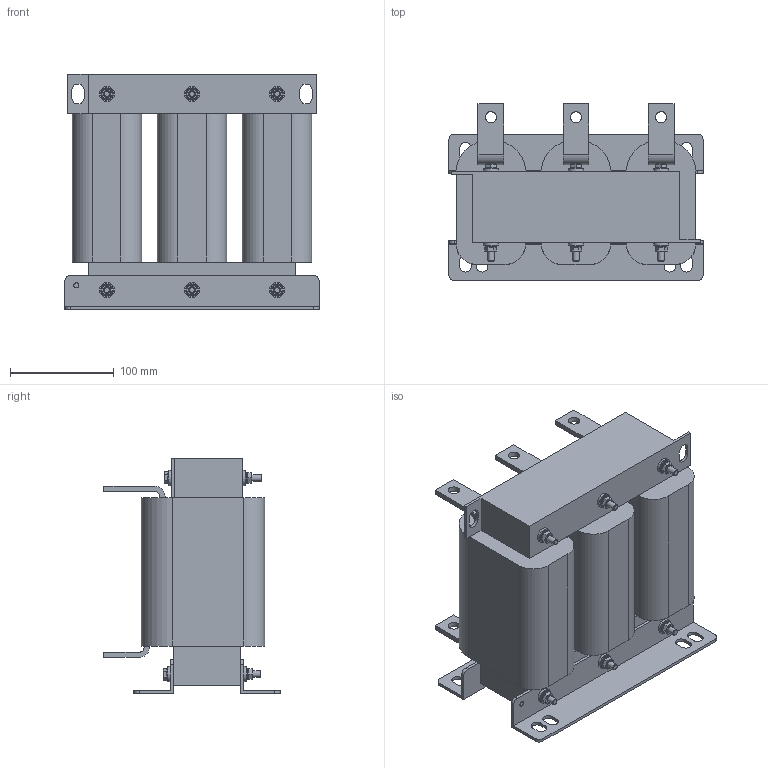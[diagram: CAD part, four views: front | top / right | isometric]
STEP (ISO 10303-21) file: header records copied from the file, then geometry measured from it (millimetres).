
FILE_DESCRIPTION(('STEP AP203'), '1');
FILE_NAME('Ñáîðêà _ IMF-132_253-4', '', ('UNSPECIFIED'), ('UNSPECIFIED'), 'C3D Converter', 'C3D Toolkit', '');
FILE_SCHEMA(('CONFIG_CONTROL_DESIGN'));
Length unit declared in the file: millimetre
Products named in the file (12): IMF-132_253-4
Assembly tree (55 placements, depth 2):
  IMF-132_253-4
    IMF-132_253-4  x3
    IMF-132_253-4
    IMF-132_253-4
    IMF-132_253-4  x2
    IMF-132_253-4  x3
    IMF-132_253-4  x3
    IMF-132_253-4  x12
    IMF-132_253-4  x12
    IMF-132_253-4  x6
    IMF-132_253-4  x6
    IMF-132_253-4  x6
Bounding box: 245 x 170 x 227 mm (x, y, z)
Volume: 4348169.4 mm3; surface area: 401847.5 mm2
Topology: 55 solids, 55 shells, 598 faces, 1284 edges, 802 vertices
Faces by surface type: plane 436, cylinder 132, cone 18, torus 12
Full cylindrical faces by diameter (mm): 5 x2, 6 x42, 6.5 x6, 11 x6, 12 x12, 14.5 x12
Entity records: 6364 total; most frequent: CARTESIAN_POINT 1008, DIRECTION 852, ORIENTED_EDGE 690, EDGE_CURVE 345, AXIS2_PLACEMENT_3D 301, LINE 250, VECTOR 250, VERTEX_POINT 235
